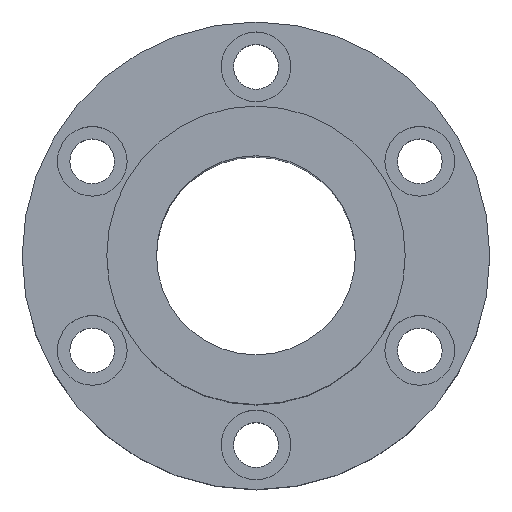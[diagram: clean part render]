
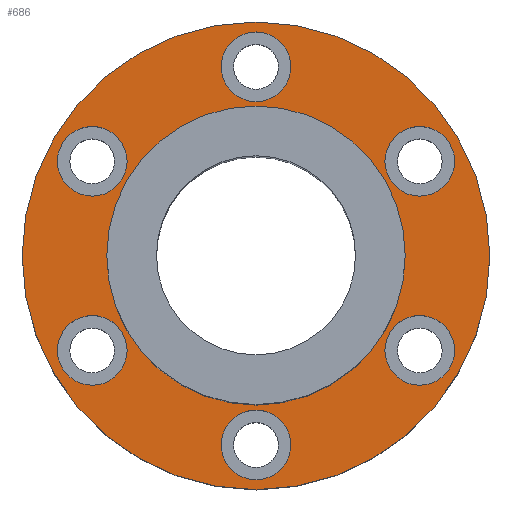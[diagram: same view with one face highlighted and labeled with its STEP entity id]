
A CAD part, top view. The second image highlights one B-rep face of the part: STEP entity #686.
In plain terms, the highlighted planar face has unit normal (0, 0, 1).
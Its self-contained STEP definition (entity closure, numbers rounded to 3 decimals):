
#1=CARTESIAN_POINT('',(0.,0.,17.5));
#2=DIRECTION('',(0.,0.,1.));
#3=DIRECTION('',(1.,0.,0.));
#4=AXIS2_PLACEMENT_3D('',#1,#2,#3);
#6=CARTESIAN_POINT('',(0.,0.,17.5));
#7=DIRECTION('',(0.,0.,1.));
#8=DIRECTION('',(-1.,0.,0.));
#9=AXIS2_PLACEMENT_3D('',#6,#7,#8);
#11=CARTESIAN_POINT('',(32.909,-19.,17.5));
#12=DIRECTION('',(0.,0.,-1.));
#13=DIRECTION('',(-0.5,-0.866,0.));
#14=AXIS2_PLACEMENT_3D('',#11,#12,#13);
#16=CARTESIAN_POINT('',(32.909,-19.,17.5));
#17=DIRECTION('',(0.,0.,-1.));
#18=DIRECTION('',(0.5,0.866,0.));
#19=AXIS2_PLACEMENT_3D('',#16,#17,#18);
#21=CARTESIAN_POINT('',(-32.909,-19.,17.5));
#22=DIRECTION('',(0.,0.,-1.));
#23=DIRECTION('',(-0.5,0.866,0.));
#24=AXIS2_PLACEMENT_3D('',#21,#22,#23);
#26=CARTESIAN_POINT('',(-32.909,-19.,17.5));
#27=DIRECTION('',(0.,0.,-1.));
#28=DIRECTION('',(0.5,-0.866,0.));
#29=AXIS2_PLACEMENT_3D('',#26,#27,#28);
#31=CARTESIAN_POINT('',(0.,38.,17.5));
#32=DIRECTION('',(0.,0.,-1.));
#33=DIRECTION('',(1.,0.,0.));
#34=AXIS2_PLACEMENT_3D('',#31,#32,#33);
#36=CARTESIAN_POINT('',(0.,38.,17.5));
#37=DIRECTION('',(0.,0.,-1.));
#38=DIRECTION('',(-1.,0.,0.));
#39=AXIS2_PLACEMENT_3D('',#36,#37,#38);
#41=CARTESIAN_POINT('',(0.,0.,17.5));
#42=DIRECTION('',(0.,0.,-1.));
#43=DIRECTION('',(1.,0.,0.));
#44=AXIS2_PLACEMENT_3D('',#41,#42,#43);
#46=CARTESIAN_POINT('',(0.,0.,17.5));
#47=DIRECTION('',(0.,0.,-1.));
#48=DIRECTION('',(-1.,0.,0.));
#49=AXIS2_PLACEMENT_3D('',#46,#47,#48);
#51=CARTESIAN_POINT('',(-32.909,19.,17.5));
#52=DIRECTION('',(0.,0.,-1.));
#53=DIRECTION('',(0.5,0.866,0.));
#54=AXIS2_PLACEMENT_3D('',#51,#52,#53);
#56=CARTESIAN_POINT('',(-32.909,19.,17.5));
#57=DIRECTION('',(0.,0.,-1.));
#58=DIRECTION('',(-0.5,-0.866,0.));
#59=AXIS2_PLACEMENT_3D('',#56,#57,#58);
#61=CARTESIAN_POINT('',(0.,-38.,17.5));
#62=DIRECTION('',(0.,0.,-1.));
#63=DIRECTION('',(-1.,0.,0.));
#64=AXIS2_PLACEMENT_3D('',#61,#62,#63);
#66=CARTESIAN_POINT('',(0.,-38.,17.5));
#67=DIRECTION('',(0.,0.,-1.));
#68=DIRECTION('',(1.,0.,0.));
#69=AXIS2_PLACEMENT_3D('',#66,#67,#68);
#71=CARTESIAN_POINT('',(32.909,19.,17.5));
#72=DIRECTION('',(0.,0.,-1.));
#73=DIRECTION('',(0.5,-0.866,0.));
#74=AXIS2_PLACEMENT_3D('',#71,#72,#73);
#76=CARTESIAN_POINT('',(32.909,19.,17.5));
#77=DIRECTION('',(0.,0.,-1.));
#78=DIRECTION('',(-0.5,0.866,0.));
#79=AXIS2_PLACEMENT_3D('',#76,#77,#78);
#561=CARTESIAN_POINT('',(-47.,0.,17.5));
#563=VERTEX_POINT('',#561);
#565=CARTESIAN_POINT('',(47.,0.,17.5));
#567=VERTEX_POINT('',#565);
#569=CARTESIAN_POINT('',(7.,38.,17.5));
#571=VERTEX_POINT('',#569);
#573=CARTESIAN_POINT('',(-7.,38.,17.5));
#575=VERTEX_POINT('',#573);
#577=CARTESIAN_POINT('',(-29.409,25.062,17.5));
#579=VERTEX_POINT('',#577);
#581=CARTESIAN_POINT('',(-36.409,12.938,17.5));
#583=VERTEX_POINT('',#581);
#585=CARTESIAN_POINT('',(-36.409,-12.938,17.5));
#587=VERTEX_POINT('',#585);
#589=CARTESIAN_POINT('',(-29.409,-25.062,17.5));
#591=VERTEX_POINT('',#589);
#593=CARTESIAN_POINT('',(-7.,-38.,17.5));
#595=VERTEX_POINT('',#593);
#597=CARTESIAN_POINT('',(7.,-38.,17.5));
#599=VERTEX_POINT('',#597);
#601=CARTESIAN_POINT('',(29.409,-25.062,17.5));
#603=VERTEX_POINT('',#601);
#605=CARTESIAN_POINT('',(36.409,-12.938,17.5));
#607=VERTEX_POINT('',#605);
#609=CARTESIAN_POINT('',(36.409,12.938,17.5));
#611=VERTEX_POINT('',#609);
#613=CARTESIAN_POINT('',(29.409,25.062,17.5));
#615=VERTEX_POINT('',#613);
#626=CARTESIAN_POINT('',(30.,0.,17.5));
#628=VERTEX_POINT('',#626);
#630=CARTESIAN_POINT('',(-30.,0.,17.5));
#632=VERTEX_POINT('',#630);
#633=CARTESIAN_POINT('',(0.,0.,17.5));
#634=DIRECTION('',(0.,0.,1.));
#635=DIRECTION('',(1.,0.,0.));
#636=AXIS2_PLACEMENT_3D('',#633,#634,#635);
#637=PLANE('',#636);
#639=ORIENTED_EDGE('',*,*,#638,.F.);
#641=ORIENTED_EDGE('',*,*,#640,.F.);
#642=EDGE_LOOP('',(#639,#641));
#643=FACE_OUTER_BOUND('',#642,.F.);
#645=ORIENTED_EDGE('',*,*,#644,.F.);
#647=ORIENTED_EDGE('',*,*,#646,.F.);
#648=EDGE_LOOP('',(#645,#647));
#649=FACE_BOUND('',#648,.F.);
#651=ORIENTED_EDGE('',*,*,#650,.F.);
#653=ORIENTED_EDGE('',*,*,#652,.F.);
#654=EDGE_LOOP('',(#651,#653));
#655=FACE_BOUND('',#654,.F.);
#657=ORIENTED_EDGE('',*,*,#656,.F.);
#659=ORIENTED_EDGE('',*,*,#658,.F.);
#660=EDGE_LOOP('',(#657,#659));
#661=FACE_BOUND('',#660,.F.);
#663=ORIENTED_EDGE('',*,*,#662,.F.);
#665=ORIENTED_EDGE('',*,*,#664,.F.);
#666=EDGE_LOOP('',(#663,#665));
#667=FACE_BOUND('',#666,.F.);
#669=ORIENTED_EDGE('',*,*,#668,.F.);
#671=ORIENTED_EDGE('',*,*,#670,.F.);
#672=EDGE_LOOP('',(#669,#671));
#673=FACE_BOUND('',#672,.F.);
#675=ORIENTED_EDGE('',*,*,#674,.F.);
#677=ORIENTED_EDGE('',*,*,#676,.F.);
#678=EDGE_LOOP('',(#675,#677));
#679=FACE_BOUND('',#678,.F.);
#681=ORIENTED_EDGE('',*,*,#680,.F.);
#683=ORIENTED_EDGE('',*,*,#682,.F.);
#684=EDGE_LOOP('',(#681,#683));
#685=FACE_BOUND('',#684,.F.);
#686=ADVANCED_FACE('',(#643,#649,#655,#661,#667,#673,#679,#685),#637,.T.);
#5=CIRCLE('',#4,47.);
#10=CIRCLE('',#9,47.);
#15=CIRCLE('',#14,7.);
#20=CIRCLE('',#19,7.);
#25=CIRCLE('',#24,7.);
#30=CIRCLE('',#29,7.);
#35=CIRCLE('',#34,7.);
#40=CIRCLE('',#39,7.);
#45=CIRCLE('',#44,30.);
#50=CIRCLE('',#49,30.);
#55=CIRCLE('',#54,7.);
#60=CIRCLE('',#59,7.);
#65=CIRCLE('',#64,7.);
#70=CIRCLE('',#69,7.);
#75=CIRCLE('',#74,7.);
#80=CIRCLE('',#79,7.);
#638=EDGE_CURVE('',#567,#563,#5,.T.);
#640=EDGE_CURVE('',#563,#567,#10,.T.);
#644=EDGE_CURVE('',#603,#607,#15,.T.);
#646=EDGE_CURVE('',#607,#603,#20,.T.);
#650=EDGE_CURVE('',#587,#591,#25,.T.);
#652=EDGE_CURVE('',#591,#587,#30,.T.);
#656=EDGE_CURVE('',#571,#575,#35,.T.);
#658=EDGE_CURVE('',#575,#571,#40,.T.);
#662=EDGE_CURVE('',#628,#632,#45,.T.);
#664=EDGE_CURVE('',#632,#628,#50,.T.);
#668=EDGE_CURVE('',#579,#583,#55,.T.);
#670=EDGE_CURVE('',#583,#579,#60,.T.);
#674=EDGE_CURVE('',#595,#599,#65,.T.);
#676=EDGE_CURVE('',#599,#595,#70,.T.);
#680=EDGE_CURVE('',#611,#615,#75,.T.);
#682=EDGE_CURVE('',#615,#611,#80,.T.);
